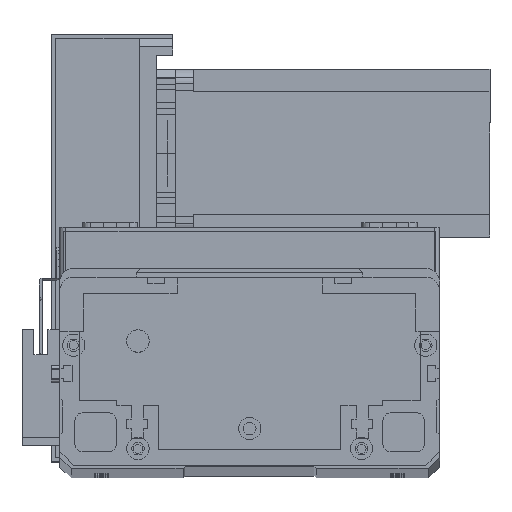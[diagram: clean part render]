
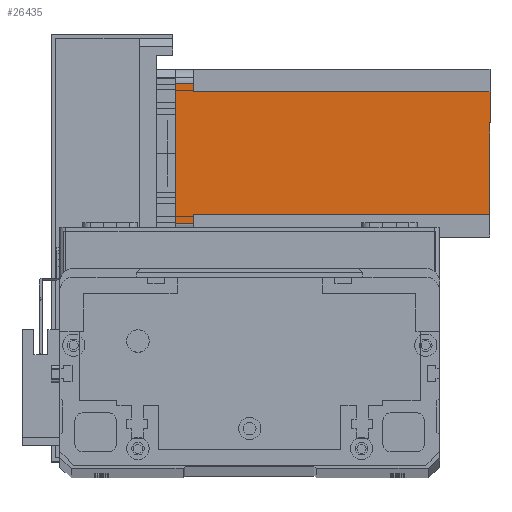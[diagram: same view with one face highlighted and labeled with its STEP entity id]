
A CAD part, top view. The second image highlights one B-rep face of the part: STEP entity #26435.
In plain terms, the highlighted planar face has unit normal (0, 0, 1) as drawn and (0, -1, 0) by its records, which use the part's own axes.
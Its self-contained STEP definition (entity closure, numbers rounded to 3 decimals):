
#123 = VECTOR ( 'NONE', #14855, 1000. ) ;
#167 = EDGE_CURVE ( 'NONE', #13514, #14155, #18849, .T. ) ;
#243 = CARTESIAN_POINT ( 'NONE',  ( 55., 0., -6.5 ) ) ;
#1391 = ORIENTED_EDGE ( 'NONE', *, *, #21268, .F. ) ;
#1428 = CARTESIAN_POINT ( 'NONE',  ( 55., 0., 0. ) ) ;
#1746 = VECTOR ( 'NONE', #4915, 1000. ) ;
#2378 = DIRECTION ( 'NONE',  ( 0., 0., 1. ) ) ;
#2612 = VERTEX_POINT ( 'NONE', #13916 ) ;
#2759 = VECTOR ( 'NONE', #16501, 1000. ) ;
#3023 = VECTOR ( 'NONE', #9420, 1000. ) ;
#3235 = LINE ( 'NONE', #11927, #1746 ) ;
#3795 = LINE ( 'NONE', #25619, #3023 ) ;
#4471 = EDGE_CURVE ( 'NONE', #17712, #5034, #12604, .T. ) ;
#4592 = AXIS2_PLACEMENT_3D ( 'NONE', #21142, #7252, #23478 ) ;
#4915 = DIRECTION ( 'NONE',  ( 0., 0., -1. ) ) ;
#4919 = ORIENTED_EDGE ( 'NONE', *, *, #12147, .T. ) ;
#4972 = CARTESIAN_POINT ( 'NONE',  ( 8., 0., -112.5 ) ) ;
#5034 = VERTEX_POINT ( 'NONE', #1428 ) ;
#5098 = CARTESIAN_POINT ( 'NONE',  ( 8., 0., -6.5 ) ) ;
#5149 = DIRECTION ( 'NONE',  ( 0., 0., 1. ) ) ;
#5449 = CARTESIAN_POINT ( 'NONE',  ( 0., 0., -112.5 ) ) ;
#6346 = CARTESIAN_POINT ( 'NONE',  ( 52., 0., -6.5 ) ) ;
#7097 = VERTEX_POINT ( 'NONE', #6346 ) ;
#7105 = EDGE_CURVE ( 'NONE', #2612, #13514, #7784, .T. ) ;
#7252 = DIRECTION ( 'NONE',  ( 0., -1., 0. ) ) ;
#7784 = LINE ( 'NONE', #4972, #26254 ) ;
#7817 = DIRECTION ( 'NONE',  ( 1., 0., 0. ) ) ;
#7895 = VECTOR ( 'NONE', #7817, 1000. ) ;
#8017 = ORIENTED_EDGE ( 'NONE', *, *, #15445, .T. ) ;
#8065 = EDGE_LOOP ( 'NONE', ( #28176, #4919, #18561, #12311, #28820, #29910, #8017, #1391 ) ) ;
#9420 = DIRECTION ( 'NONE',  ( 1., 0., 0. ) ) ;
#9758 = LINE ( 'NONE', #21184, #2759 ) ;
#11927 = CARTESIAN_POINT ( 'NONE',  ( 5., 0., -112.5 ) ) ;
#12147 = EDGE_CURVE ( 'NONE', #24827, #5034, #26780, .T. ) ;
#12311 = ORIENTED_EDGE ( 'NONE', *, *, #18923, .T. ) ;
#12604 = LINE ( 'NONE', #15159, #123 ) ;
#12732 = VECTOR ( 'NONE', #24154, 1000. ) ;
#13514 = VERTEX_POINT ( 'NONE', #5098 ) ;
#13916 = CARTESIAN_POINT ( 'NONE',  ( 8., 0., -112.5 ) ) ;
#14042 = LINE ( 'NONE', #5449, #7895 ) ;
#14155 = VERTEX_POINT ( 'NONE', #16261 ) ;
#14855 = DIRECTION ( 'NONE',  ( 1., 0., 0. ) ) ;
#15159 = CARTESIAN_POINT ( 'NONE',  ( 0., 0., 0. ) ) ;
#15445 = EDGE_CURVE ( 'NONE', #2612, #28143, #14042, .T. ) ;
#16261 = CARTESIAN_POINT ( 'NONE',  ( 5., 0., -6.5 ) ) ;
#16501 = DIRECTION ( 'NONE',  ( 0., 0., -1. ) ) ;
#17712 = VERTEX_POINT ( 'NONE', #18386 ) ;
#18045 = FACE_OUTER_BOUND ( 'NONE', #8065, .T. ) ;
#18386 = CARTESIAN_POINT ( 'NONE',  ( 5., 0., 0. ) ) ;
#18561 = ORIENTED_EDGE ( 'NONE', *, *, #4471, .F. ) ;
#18849 = LINE ( 'NONE', #23546, #12732 ) ;
#18923 = EDGE_CURVE ( 'NONE', #17712, #14155, #3235, .T. ) ;
#21142 = CARTESIAN_POINT ( 'NONE',  ( 0., 0., -112.5 ) ) ;
#21184 = CARTESIAN_POINT ( 'NONE',  ( 52., 0., -112.5 ) ) ;
#21268 = EDGE_CURVE ( 'NONE', #7097, #28143, #9758, .T. ) ;
#21351 = VECTOR ( 'NONE', #2378, 1000. ) ;
#21923 = CARTESIAN_POINT ( 'NONE',  ( 52., 0., -112.5 ) ) ;
#23478 = DIRECTION ( 'NONE',  ( 0., 0., -1. ) ) ;
#23546 = CARTESIAN_POINT ( 'NONE',  ( 8., 0., -6.5 ) ) ;
#24154 = DIRECTION ( 'NONE',  ( -1., 0., 0. ) ) ;
#24827 = VERTEX_POINT ( 'NONE', #243 ) ;
#25619 = CARTESIAN_POINT ( 'NONE',  ( 52., 0., -6.5 ) ) ;
#26254 = VECTOR ( 'NONE', #5149, 1000. ) ;
#26435 = ADVANCED_FACE ( 'NONE', ( #18045 ), #27950, .T. ) ;
#26780 = LINE ( 'NONE', #27847, #21351 ) ;
#27653 = EDGE_CURVE ( 'NONE', #7097, #24827, #3795, .T. ) ;
#27847 = CARTESIAN_POINT ( 'NONE',  ( 55., 0., -112.5 ) ) ;
#27950 = PLANE ( 'NONE',  #4592 ) ;
#28143 = VERTEX_POINT ( 'NONE', #21923 ) ;
#28176 = ORIENTED_EDGE ( 'NONE', *, *, #27653, .T. ) ;
#28820 = ORIENTED_EDGE ( 'NONE', *, *, #167, .F. ) ;
#29910 = ORIENTED_EDGE ( 'NONE', *, *, #7105, .F. ) ;
